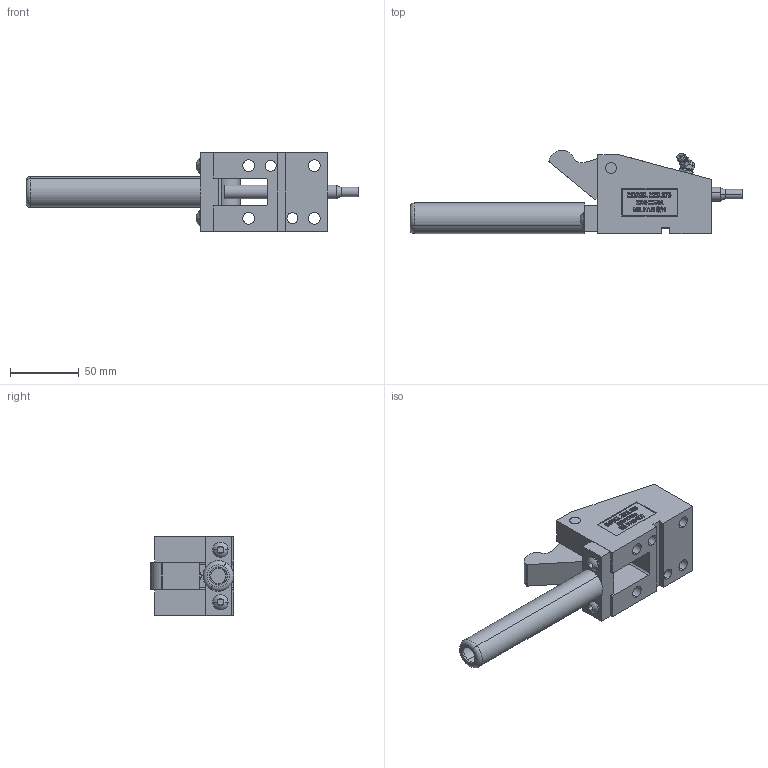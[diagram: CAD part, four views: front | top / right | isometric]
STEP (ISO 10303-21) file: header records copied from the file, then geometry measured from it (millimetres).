
FILE_DESCRIPTION (( 'STEP AP214' ), '1' );
FILE_NAME ('MOL37545-O.STEP', '2014-01-07T22:25:43', ( 'user' ), ( '' ), 'SwSTEP 2.0', 'SolidWorks 2009', '' );
FILE_SCHEMA (( 'AUTOMOTIVE_DESIGN' ));
Length unit declared in the file: inch
Products named in the file (1): MOL37545-O
Bounding box: 241.3 x 60.43 x 57.15 mm (x, y, z)
Surface area: 64549.8 mm2 (no closed solid volume)
Topology: 0 solids, 10 shells, 464 faces, 1468 edges, 988 vertices
Faces by surface type: plane 270, bspline 85, cylinder 72, torus 20, cone 13, sphere 4
Entity records: 27276 total; most frequent: CARTESIAN_POINT 9073, ORIENTED_EDGE 2547, DIRECTION 2134, EDGE_CURVE 1466, VERTEX_POINT 988, VECTOR 974, LINE 974, AXIS2_PLACEMENT_3D 580
